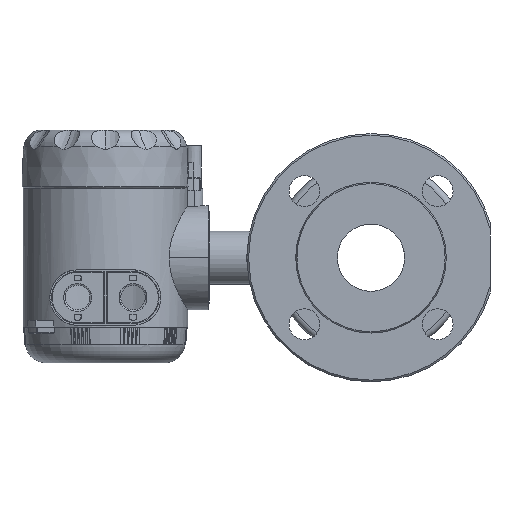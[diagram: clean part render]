
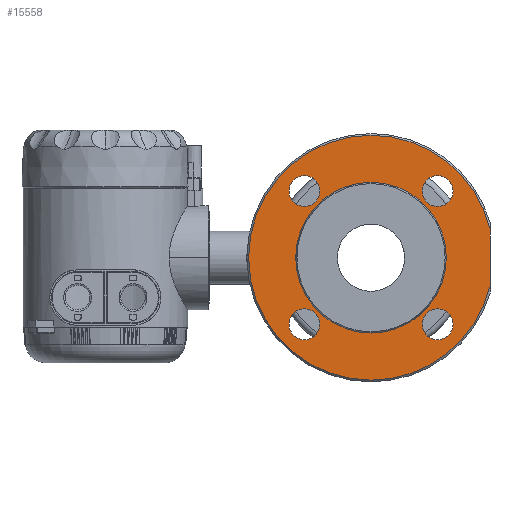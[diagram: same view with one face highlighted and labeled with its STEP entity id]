
A CAD part, left-side view. The second image highlights one B-rep face of the part: STEP entity #15558.
In plain terms, the highlighted planar face has unit normal (-1, 0, 0).
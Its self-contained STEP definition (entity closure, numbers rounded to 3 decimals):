
#35 = CIRCLE ( 'NONE', #20555, 9. ) ;
#41 = EDGE_LOOP ( 'NONE', ( #10890, #19910 ) ) ;
#96 = AXIS2_PLACEMENT_3D ( 'NONE', #2315, #15992, #4313 ) ;
#228 = DIRECTION ( 'NONE',  ( 1., 0., 0. ) ) ;
#288 = DIRECTION ( 'NONE',  ( 0., 0., -1. ) ) ;
#480 = ORIENTED_EDGE ( 'NONE', *, *, #13371, .T. ) ;
#525 = CIRCLE ( 'NONE', #24272, 44. ) ;
#553 = CIRCLE ( 'NONE', #2875, 9. ) ;
#813 = CARTESIAN_POINT ( 'NONE',  ( -95.8, -69.5, -16.793 ) ) ;
#954 = ORIENTED_EDGE ( 'NONE', *, *, #10743, .T. ) ;
#962 = CIRCLE ( 'NONE', #17477, 9. ) ;
#995 = VERTEX_POINT ( 'NONE', #4910 ) ;
#1088 = VERTEX_POINT ( 'NONE', #8411 ) ;
#1387 = LINE ( 'NONE', #21892, #16388 ) ;
#1882 = VERTEX_POINT ( 'NONE', #13835 ) ;
#2315 = CARTESIAN_POINT ( 'NONE',  ( -95.8, 44., 0. ) ) ;
#2685 = CARTESIAN_POINT ( 'NONE',  ( -95.8, 0., 0. ) ) ;
#2724 = AXIS2_PLACEMENT_3D ( 'NONE', #19174, #7497, #21123 ) ;
#2875 = AXIS2_PLACEMENT_3D ( 'NONE', #11971, #228, #13920 ) ;
#2985 = FACE_BOUND ( 'NONE', #22401, .T. ) ;
#3278 = ORIENTED_EDGE ( 'NONE', *, *, #15562, .F. ) ;
#3729 = ORIENTED_EDGE ( 'NONE', *, *, #10990, .T. ) ;
#3733 = ORIENTED_EDGE ( 'NONE', *, *, #20107, .T. ) ;
#4272 = DIRECTION ( 'NONE',  ( 1., 0., 0. ) ) ;
#4313 = DIRECTION ( 'NONE',  ( 0., 0., -1. ) ) ;
#4497 = VERTEX_POINT ( 'NONE', #813 ) ;
#4524 = AXIS2_PLACEMENT_3D ( 'NONE', #5038, #18688, #6982 ) ;
#4590 = CARTESIAN_POINT ( 'NONE',  ( -95.8, 38.891, 29.891 ) ) ;
#4678 = DIRECTION ( 'NONE',  ( 0., 0., -1. ) ) ;
#4717 = EDGE_CURVE ( 'NONE', #12273, #4497, #1387, .T. ) ;
#4881 = AXIS2_PLACEMENT_3D ( 'NONE', #2685, #16361, #4678 ) ;
#4910 = CARTESIAN_POINT ( 'NONE',  ( -95.8, 38.891, 47.891 ) ) ;
#4999 = CARTESIAN_POINT ( 'NONE',  ( -95.8, 0., -44. ) ) ;
#5038 = CARTESIAN_POINT ( 'NONE',  ( -95.8, 38.891, 38.891 ) ) ;
#5266 = CARTESIAN_POINT ( 'NONE',  ( -95.8, -38.891, 38.891 ) ) ;
#5339 = VERTEX_POINT ( 'NONE', #10320 ) ;
#5547 = CARTESIAN_POINT ( 'NONE',  ( -95.8, 0., 71.5 ) ) ;
#5749 = EDGE_CURVE ( 'NONE', #6132, #1882, #8669, .T. ) ;
#6132 = VERTEX_POINT ( 'NONE', #7647 ) ;
#6190 = ORIENTED_EDGE ( 'NONE', *, *, #20378, .T. ) ;
#6661 = EDGE_CURVE ( 'NONE', #17545, #19341, #35, .T. ) ;
#6813 = ORIENTED_EDGE ( 'NONE', *, *, #4717, .F. ) ;
#6823 = CIRCLE ( 'NONE', #16155, 9. ) ;
#6982 = DIRECTION ( 'NONE',  ( 0., 0., -1. ) ) ;
#7132 = CARTESIAN_POINT ( 'NONE',  ( -95.8, 38.891, -38.891 ) ) ;
#7134 = EDGE_CURVE ( 'NONE', #9876, #5339, #6823, .T. ) ;
#7144 = EDGE_CURVE ( 'NONE', #1882, #6132, #962, .T. ) ;
#7195 = DIRECTION ( 'NONE',  ( 0., 0., -1. ) ) ;
#7298 = CARTESIAN_POINT ( 'NONE',  ( -95.8, 0., 0. ) ) ;
#7497 = DIRECTION ( 'NONE',  ( 1., 0., 0. ) ) ;
#7647 = CARTESIAN_POINT ( 'NONE',  ( -95.8, -38.891, -47.891 ) ) ;
#8094 = ORIENTED_EDGE ( 'NONE', *, *, #5749, .T. ) ;
#8213 = FACE_OUTER_BOUND ( 'NONE', #19383, .T. ) ;
#8411 = CARTESIAN_POINT ( 'NONE',  ( -95.8, 0., 44. ) ) ;
#8669 = CIRCLE ( 'NONE', #2724, 9. ) ;
#8718 = CARTESIAN_POINT ( 'NONE',  ( -95.8, 38.891, -29.891 ) ) ;
#9099 = DIRECTION ( 'NONE',  ( 0., 0., -1. ) ) ;
#9266 = DIRECTION ( 'NONE',  ( 0., 0., -1. ) ) ;
#9468 = CIRCLE ( 'NONE', #13836, 71.5 ) ;
#9633 = DIRECTION ( 'NONE',  ( -1., 0., 0. ) ) ;
#9876 = VERTEX_POINT ( 'NONE', #8718 ) ;
#10206 = CARTESIAN_POINT ( 'NONE',  ( -95.8, 0., 0. ) ) ;
#10320 = CARTESIAN_POINT ( 'NONE',  ( -95.8, 38.891, -47.891 ) ) ;
#10649 = EDGE_CURVE ( 'NONE', #5339, #9876, #15858, .T. ) ;
#10743 = EDGE_CURVE ( 'NONE', #12273, #15477, #9468, .T. ) ;
#10890 = ORIENTED_EDGE ( 'NONE', *, *, #7134, .T. ) ;
#10974 = CARTESIAN_POINT ( 'NONE',  ( -95.8, 38.891, 38.891 ) ) ;
#10990 = EDGE_CURVE ( 'NONE', #15477, #23527, #16781, .T. ) ;
#11049 = CARTESIAN_POINT ( 'NONE',  ( -95.8, -38.891, 29.891 ) ) ;
#11090 = EDGE_CURVE ( 'NONE', #19341, #17545, #553, .T. ) ;
#11226 = AXIS2_PLACEMENT_3D ( 'NONE', #7132, #20771, #9099 ) ;
#11621 = CARTESIAN_POINT ( 'NONE',  ( -95.8, 0., 0. ) ) ;
#11971 = CARTESIAN_POINT ( 'NONE',  ( -95.8, -38.891, 38.891 ) ) ;
#12039 = DIRECTION ( 'NONE',  ( 1., 0., 0. ) ) ;
#12151 = DIRECTION ( 'NONE',  ( 0., 0., 1. ) ) ;
#12273 = VERTEX_POINT ( 'NONE', #13375 ) ;
#12584 = EDGE_LOOP ( 'NONE', ( #14463, #8094 ) ) ;
#12796 = FACE_BOUND ( 'NONE', #12584, .T. ) ;
#12944 = DIRECTION ( 'NONE',  ( 0., 0., -1. ) ) ;
#13371 = EDGE_CURVE ( 'NONE', #23527, #4497, #15180, .T. ) ;
#13375 = CARTESIAN_POINT ( 'NONE',  ( -95.8, -69.5, 16.793 ) ) ;
#13394 = FACE_BOUND ( 'NONE', #24767, .T. ) ;
#13593 = DIRECTION ( 'NONE',  ( 0., 0., -1. ) ) ;
#13775 = EDGE_LOOP ( 'NONE', ( #3278, #25458 ) ) ;
#13835 = CARTESIAN_POINT ( 'NONE',  ( -95.8, -38.891, -29.891 ) ) ;
#13836 = AXIS2_PLACEMENT_3D ( 'NONE', #7298, #20932, #9266 ) ;
#13920 = DIRECTION ( 'NONE',  ( 0., 0., -1. ) ) ;
#14463 = ORIENTED_EDGE ( 'NONE', *, *, #7144, .T. ) ;
#14607 = CIRCLE ( 'NONE', #16129, 9. ) ;
#15180 = CIRCLE ( 'NONE', #4881, 71.5 ) ;
#15477 = VERTEX_POINT ( 'NONE', #5547 ) ;
#15558 = ADVANCED_FACE ( 'NONE', ( #17991, #18604, #2985, #12796, #13394, #8213 ), #19821, .F. ) ;
#15562 = EDGE_CURVE ( 'NONE', #1088, #18957, #525, .T. ) ;
#15654 = AXIS2_PLACEMENT_3D ( 'NONE', #21305, #9633, #23316 ) ;
#15858 = CIRCLE ( 'NONE', #11226, 9. ) ;
#15955 = CARTESIAN_POINT ( 'NONE',  ( -95.8, -38.891, -38.891 ) ) ;
#15992 = DIRECTION ( 'NONE',  ( 1., 0., 0. ) ) ;
#16129 = AXIS2_PLACEMENT_3D ( 'NONE', #10974, #24690, #12944 ) ;
#16155 = AXIS2_PLACEMENT_3D ( 'NONE', #23781, #12039, #288 ) ;
#16361 = DIRECTION ( 'NONE',  ( -1., 0., 0. ) ) ;
#16388 = VECTOR ( 'NONE', #23922, 1000. ) ;
#16550 = CARTESIAN_POINT ( 'NONE',  ( -95.8, 0., -71.5 ) ) ;
#16781 = CIRCLE ( 'NONE', #23024, 71.5 ) ;
#17477 = AXIS2_PLACEMENT_3D ( 'NONE', #15955, #4272, #17938 ) ;
#17545 = VERTEX_POINT ( 'NONE', #11049 ) ;
#17806 = ORIENTED_EDGE ( 'NONE', *, *, #6661, .T. ) ;
#17938 = DIRECTION ( 'NONE',  ( 0., 0., -1. ) ) ;
#17991 = FACE_BOUND ( 'NONE', #13775, .T. ) ;
#18341 = EDGE_CURVE ( 'NONE', #18957, #1088, #20700, .T. ) ;
#18604 = FACE_BOUND ( 'NONE', #41, .T. ) ;
#18688 = DIRECTION ( 'NONE',  ( 1., 0., 0. ) ) ;
#18891 = DIRECTION ( 'NONE',  ( 1., 0., 0. ) ) ;
#18957 = VERTEX_POINT ( 'NONE', #4999 ) ;
#19174 = CARTESIAN_POINT ( 'NONE',  ( -95.8, -38.891, -38.891 ) ) ;
#19341 = VERTEX_POINT ( 'NONE', #24611 ) ;
#19383 = EDGE_LOOP ( 'NONE', ( #6813, #954, #3729, #480 ) ) ;
#19821 = PLANE ( 'NONE',  #96 ) ;
#19910 = ORIENTED_EDGE ( 'NONE', *, *, #10649, .T. ) ;
#20107 = EDGE_CURVE ( 'NONE', #20285, #995, #23204, .T. ) ;
#20258 = ORIENTED_EDGE ( 'NONE', *, *, #11090, .T. ) ;
#20285 = VERTEX_POINT ( 'NONE', #4590 ) ;
#20378 = EDGE_CURVE ( 'NONE', #995, #20285, #14607, .T. ) ;
#20555 = AXIS2_PLACEMENT_3D ( 'NONE', #5266, #18891, #7195 ) ;
#20700 = CIRCLE ( 'NONE', #15654, 44. ) ;
#20771 = DIRECTION ( 'NONE',  ( 1., 0., 0. ) ) ;
#20932 = DIRECTION ( 'NONE',  ( -1., 0., 0. ) ) ;
#21123 = DIRECTION ( 'NONE',  ( 0., 0., -1. ) ) ;
#21305 = CARTESIAN_POINT ( 'NONE',  ( -95.8, 0., 0. ) ) ;
#21892 = CARTESIAN_POINT ( 'NONE',  ( -95.8, -69.5, 0. ) ) ;
#22401 = EDGE_LOOP ( 'NONE', ( #6190, #3733 ) ) ;
#23024 = AXIS2_PLACEMENT_3D ( 'NONE', #11621, #25383, #13593 ) ;
#23204 = CIRCLE ( 'NONE', #4524, 9. ) ;
#23316 = DIRECTION ( 'NONE',  ( 0., 0., 1. ) ) ;
#23527 = VERTEX_POINT ( 'NONE', #16550 ) ;
#23781 = CARTESIAN_POINT ( 'NONE',  ( -95.8, 38.891, -38.891 ) ) ;
#23917 = DIRECTION ( 'NONE',  ( -1., 0., 0. ) ) ;
#23922 = DIRECTION ( 'NONE',  ( 0., 0., -1. ) ) ;
#24272 = AXIS2_PLACEMENT_3D ( 'NONE', #10206, #23917, #12151 ) ;
#24611 = CARTESIAN_POINT ( 'NONE',  ( -95.8, -38.891, 47.891 ) ) ;
#24690 = DIRECTION ( 'NONE',  ( 1., 0., 0. ) ) ;
#24767 = EDGE_LOOP ( 'NONE', ( #20258, #17806 ) ) ;
#25383 = DIRECTION ( 'NONE',  ( -1., 0., 0. ) ) ;
#25458 = ORIENTED_EDGE ( 'NONE', *, *, #18341, .F. ) ;
